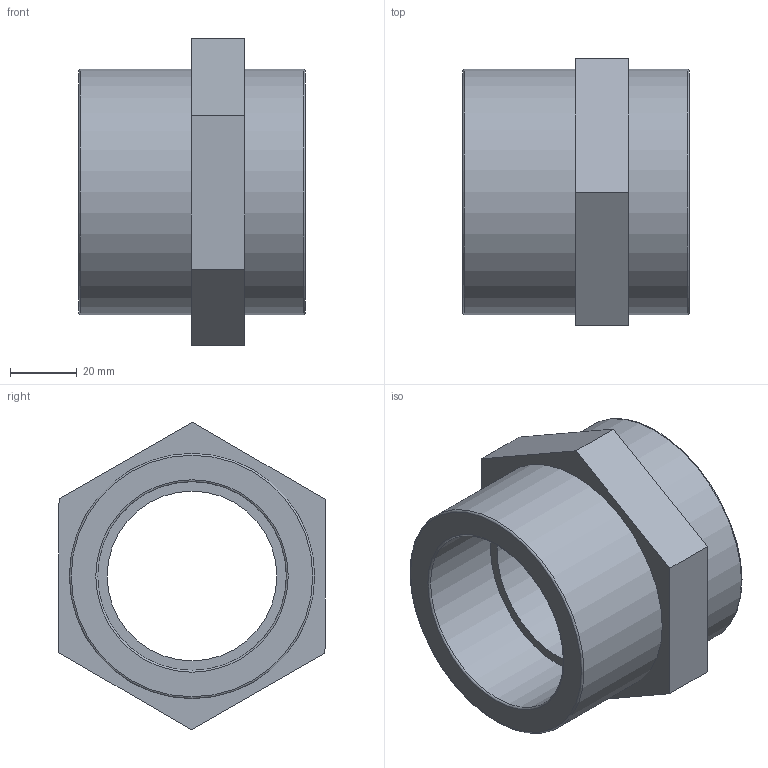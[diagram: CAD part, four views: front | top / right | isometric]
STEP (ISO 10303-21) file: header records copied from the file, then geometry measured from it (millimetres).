
FILE_DESCRIPTION(/* description */ ('PLASSON THREADED SOCKET PVC 2"'),/* implementation_level */ '2;1');
FILE_NAME(/* name */ 'C:\Dropbox\KIMPROJECTS-Inventor\99-16-3568-Processing\PVC Catalog 2017\050101\050101020.ipt.stp',/* time_stamp */ '2017-12-07T15:51:44+02:00',/* author */ ('KIM'),/* organization */ (''),/* preprocessor_version */ 'ST-DEVELOPER v15.6',/* originating_system */ 'Autodesk Inventor 2015',/* authorisation */ '');
FILE_SCHEMA (('AUTOMOTIVE_DESIGN { 1 0 10303 214 3 1 1 }'));
Length unit declared in the file: millimetre
Products named in the file (1): 050101020
Bounding box: 68 x 80.13 x 92.38 mm (x, y, z)
Volume: 146407.1 mm3; surface area: 35086.6 mm2
Topology: 1 solids, 1 shells, 21 faces, 41 edges, 26 vertices
Faces by surface type: plane 12, cylinder 5, torus 4
Full cylindrical faces by diameter (mm): 50.99 x1, 56.656 x2, 73.653 x2
Entity records: 520 total; most frequent: DIRECTION 90, CARTESIAN_POINT 80, ORIENTED_EDGE 64, EDGE_LOOP 36, AXIS2_PLACEMENT_3D 36, EDGE_CURVE 32, VERTEX_POINT 26, FACE_OUTER_BOUND 21
